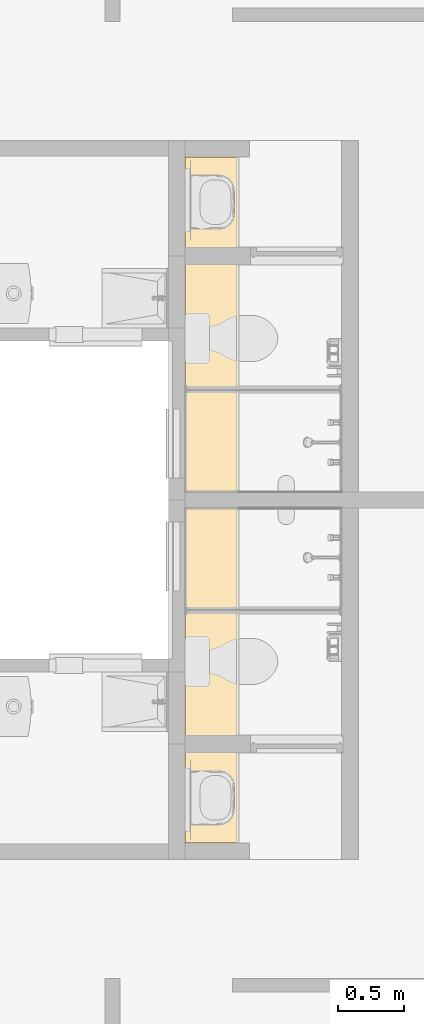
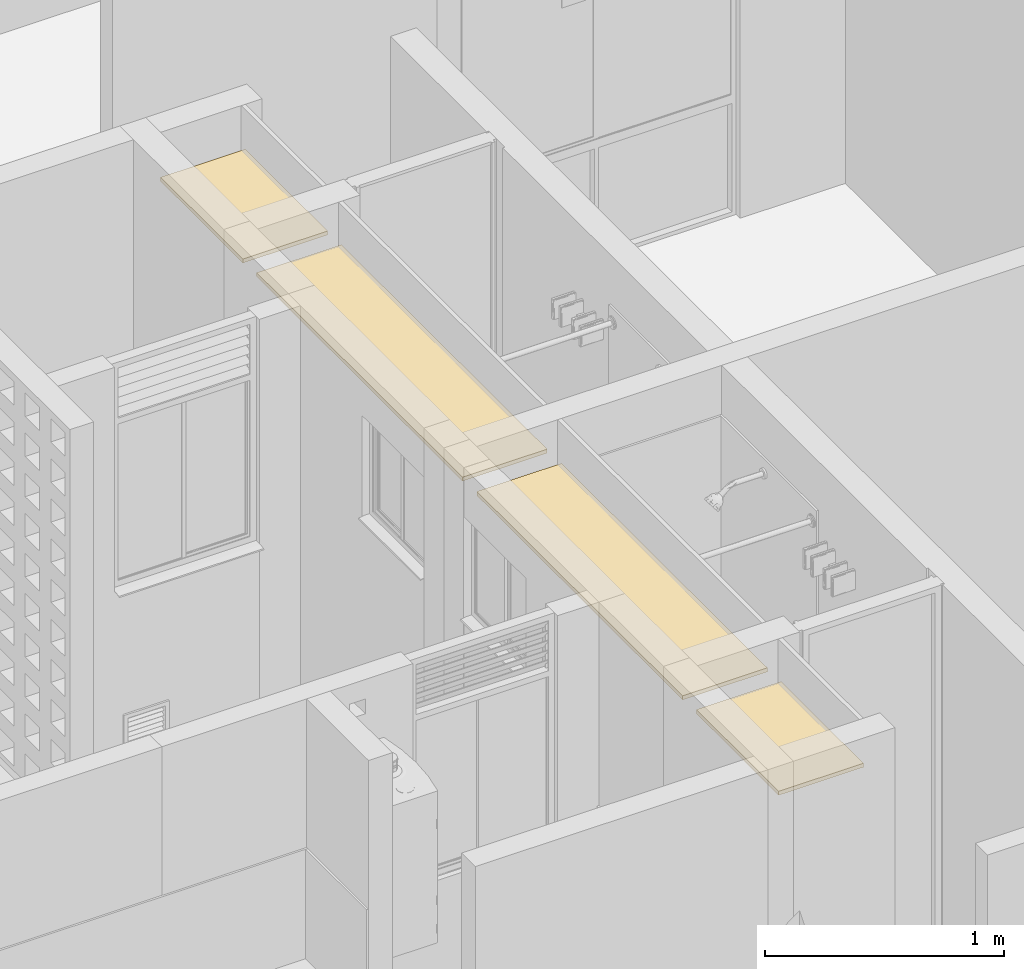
# One storey, part 37 of 48: 2 coverings.
"""IFC4 building model written with IfcOpenShell, lengths in metres."""

import ifcopenshell
import ifcopenshell.guid

model = None  # the IFC model being written
_history = None  # IfcOwnerHistory: only IFC2X3 demands one
_inside = {}  # id of a spatial element -> (the spatial element, [elements in it])
_under = {}  # id of a project, library or spatial element -> (it, [spatial elements below it])
_declared = {}  # id of a project -> (the project, [libraries it declares])
_typed = {}  # id of a type object -> (the type object, [elements of that type])
_made_of = {}  # id of a material, layer set ... -> (it, [elements and type objects made of it])


def new_model(schema):
    """Start an empty IFC model of exactly this schema.

    Asked for "IFC4X3", IfcOpenShell would pick the latest addendum, in which some entities
    have other attributes; the version numbers below select the first issue.
    IFC2X3 requires an IfcOwnerHistory on every rooted entity: one is made here for all.
    """
    global model, _history
    if schema == "IFC4X3":
        model = ifcopenshell.file(schema_version=(4, 3, 0, 0))
    else:
        model = ifcopenshell.file(schema=schema)
    _inside.clear()
    _under.clear()
    _declared.clear()
    _typed.clear()
    _made_of.clear()
    _history = None
    if model.schema == "IFC2X3":
        org = make("IfcOrganization", Name="unknown")
        user = make(
            "IfcPersonAndOrganization",
            ThePerson=make("IfcPerson", FamilyName="unknown"),
            TheOrganization=org,
        )
        app = make(
            "IfcApplication",
            ApplicationDeveloper=org,
            Version="unknown",
            ApplicationFullName="unknown",
            ApplicationIdentifier="unknown",
        )
        _history = make(
            "IfcOwnerHistory",
            OwningUser=user,
            OwningApplication=app,
            ChangeAction="ADDED",
            CreationDate=0,
        )
    return model


def make(cls, **values):
    """One entity of the class cls with the attributes given. An attribute that is None is left unset."""
    return model.create_entity(
        cls, **{name: value for name, value in values.items() if value is not None}
    )


def entity(cls, *values):
    """Any entity or typed value of the class cls, its attributes in the order of the schema. None: left unset."""
    e = model.create_entity(cls)
    for i, value in enumerate(values):
        if value is not None:
            e[i] = value
    return e


def rooted(cls, **values):
    """An entity with a GlobalId (a new one), such as an element, a storey or a relation."""
    return make(cls, GlobalId=ifcopenshell.guid.new(), OwnerHistory=_history, **values)


def si_unit(unit_type, name, prefix=None):
    """IfcSIUnit, for example si_unit("LENGTHUNIT", "METRE", prefix="MILLI")."""
    return make("IfcSIUnit", UnitType=unit_type, Prefix=prefix, Name=name)


def converted_unit(unit_type, name, factor, base, dimensions=None, offset=None):
    """IfcConversionBasedUnit, such as the inch: factor (a typed value) times the base unit."""
    return make(
        "IfcConversionBasedUnit"
        if offset is None
        else "IfcConversionBasedUnitWithOffset",
        ConversionOffset=offset,
        Dimensions=None
        if dimensions is None
        else entity("IfcDimensionalExponents", *dimensions),
        UnitType=unit_type,
        Name=name,
        ConversionFactor=make(
            "IfcMeasureWithUnit", ValueComponent=factor, UnitComponent=base
        ),
    )


def derived_unit(unit_type, elements):
    """IfcDerivedUnit: a product of units, each with its exponent."""
    return make(
        "IfcDerivedUnit",
        Elements=[
            make("IfcDerivedUnitElement", Unit=unit, Exponent=power)
            for unit, power in elements
        ],
        UnitType=unit_type,
    )


def assignment(units):
    """IfcUnitAssignment: the units of a project."""
    return None if units is None else make("IfcUnitAssignment", Units=units)


def point(xyz):
    """IfcCartesianPoint."""
    return None if xyz is None else make("IfcCartesianPoint", Coordinates=xyz)


def direction(xyz):
    """IfcDirection."""
    return None if xyz is None else make("IfcDirection", DirectionRatios=xyz)


def frame(location, z_axis=None, x_axis=None):
    """IfcAxis2Placement3D, a coordinate frame: its origin and axes. An axis left out is left unset."""
    return make(
        "IfcAxis2Placement3D",
        Location=point(location),
        Axis=direction(z_axis),
        RefDirection=direction(x_axis),
    )


def origin():
    """The frame at (0, 0, 0) with its axes left unset."""
    return frame((0.0, 0.0, 0.0))


def place(relative_to, where):
    """IfcLocalPlacement: puts the frame where relative to a parent placement (None: the world)."""
    return make(
        "IfcLocalPlacement", PlacementRelTo=relative_to, RelativePlacement=where
    )


def context(
    kind, dimensions, precision=None, world=None, true_north=None, identifier=None
):
    """IfcGeometricRepresentationContext, for example the 3D "Model" context."""
    return make(
        "IfcGeometricRepresentationContext",
        ContextIdentifier=identifier,
        ContextType=kind,
        CoordinateSpaceDimension=dimensions,
        Precision=precision,
        WorldCoordinateSystem=world,
        TrueNorth=true_north,
    )


def subcontext(parent, identifier, kind, view, scale=None):
    """IfcGeometricRepresentationSubContext, for example "Body" below "Model"."""
    return make(
        "IfcGeometricRepresentationSubContext",
        ContextIdentifier=identifier,
        ContextType=kind,
        ParentContext=parent,
        TargetScale=scale,
        TargetView=view,
    )


def project(units=None, contexts=None):
    """IfcProject with its units and contexts."""
    return rooted(
        "IfcProject",
        Name="project",
        RepresentationContexts=contexts,
        UnitsInContext=assignment(units),
    )


def spatial(cls, under=None, at=None, **own):
    """A site, building, storey or space (cls), placed at a placement, below another one or the project."""
    s = rooted(cls, ObjectPlacement=at, **own)
    if under is not None:
        _under.setdefault(under.id(), (under, []))[1].append(s)
    return s


def point_list(points):
    """IfcCartesianPointList2D or 3D."""
    cls = (
        "IfcCartesianPointList2D" if len(points[0]) == 2 else "IfcCartesianPointList3D"
    )
    return make(cls, CoordList=points)


def indexed_curve(points, segments=None, self_intersect=None):
    """IfcIndexedPolyCurve: lines and arcs through numbered points (the first is 1)."""
    return make(
        "IfcIndexedPolyCurve",
        Points=point_list(points),
        Segments=segments,
        SelfIntersect=self_intersect,
    )


def outline(outer, holes=None, kind="AREA"):
    """IfcArbitraryClosedProfileDef: a profile drawn as a closed curve; with holes, ...WithVoids."""
    if holes is None:
        return make("IfcArbitraryClosedProfileDef", ProfileType=kind, OuterCurve=outer)
    return make(
        "IfcArbitraryProfileDefWithVoids",
        ProfileType=kind,
        OuterCurve=outer,
        InnerCurves=holes,
    )


def extrude(swept, where, along, depth):
    """IfcExtrudedAreaSolid: the profile swept, set in the frame where, extruded along a direction by depth."""
    return make(
        "IfcExtrudedAreaSolid",
        SweptArea=swept,
        Position=where,
        ExtrudedDirection=direction(along),
        Depth=depth,
    )


def shape(context_of_items, identifier, shape_type, items):
    """IfcShapeRepresentation: the items that make up one representation, for example the "Body"."""
    return make(
        "IfcShapeRepresentation",
        ContextOfItems=context_of_items,
        RepresentationIdentifier=identifier,
        RepresentationType=shape_type,
        Items=items,
    )


def material(Name=None, Category=None):
    """IfcMaterial."""
    return make("IfcMaterial", Name=Name, Category=Category)


def made_of(thing, what):
    """Note that an element or type object is made of a material, layer set ...; save() writes the relation."""
    if what is not None:
        _made_of.setdefault(what.id(), (what, []))[1].append(thing)
    return thing


def type_object(cls, material=None, **own):
    """A type object (cls), such as IfcWallType, which elements share."""
    return made_of(rooted(cls, **own), material)


def element(
    cls,
    number,
    at=None,
    inside=None,
    cuts=None,
    type_object=None,
    material=None,
    context=None,
    identifier="Body",
    shape_type=None,
    held_by="IfcProductDefinitionShape",
    body=None,
    shapes=None,
    **own,
):
    """One element of the class cls, such as IfcWall. Its Tag is "e" and its number.

    at: its placement. inside: the storey or other place that contains it. cuts: it is an
    opening in that element (IfcRelVoidsElement). A single representation is given by context,
    identifier, shape_type and body (its items); several are given by shapes. held_by: the class
    of the entity that holds the representations. save() writes the other relations.
    """
    e = rooted(cls, Tag="e%d" % number, ObjectPlacement=at, **own)
    if body is not None:
        shapes = [shape(context, identifier, shape_type, body)]
    if shapes is not None:
        e.Representation = make(held_by, Representations=shapes)
    if inside is not None:
        _inside.setdefault(inside.id(), (inside, []))[1].append(e)
    if cuts is not None:
        rooted(
            "IfcRelVoidsElement", RelatingBuildingElement=cuts, RelatedOpeningElement=e
        )
    if type_object is not None:
        _typed.setdefault(type_object.id(), (type_object, []))[1].append(e)
    return made_of(e, material)


def aggregate(whole, parts):
    """IfcRelAggregates: a whole, such as a stair, and the parts it consists of."""
    return rooted("IfcRelAggregates", RelatingObject=whole, RelatedObjects=parts)


def save(model, path):
    """Write the relations noted so far, then the file.

    IfcRelAggregates (storeys below a building ...), IfcRelContainedInSpatialStructure (elements
    in a storey), IfcRelDefinesByType, IfcRelAssociatesMaterial and IfcRelDeclares: one each for
    every whole, place, type object, material and project.
    """
    for whole, parts in _under.values():
        aggregate(whole, parts)
    for where, things in _inside.values():
        rooted(
            "IfcRelContainedInSpatialStructure",
            RelatedElements=things,
            RelatingStructure=where,
        )
    for kind, things in _typed.values():
        rooted("IfcRelDefinesByType", RelatedObjects=things, RelatingType=kind)
    for what, things in _made_of.values():
        rooted("IfcRelAssociatesMaterial", RelatedObjects=things, RelatingMaterial=what)
    for by, libraries in _declared.values():
        rooted("IfcRelDeclares", RelatingContext=by, RelatedDefinitions=libraries)
    model.write(path)


model = new_model("IFC4")

# Units and contexts
model_context = context("Model", 3, precision=1e-05, world=origin(), true_north=direction((6.123031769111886e-17, 1.0)))
body_context = subcontext(model_context, "Body", "Model", "MODEL_VIEW")
ifc_project = project(units=[si_unit("LENGTHUNIT", "METRE"), si_unit("AREAUNIT", "SQUARE_METRE"), si_unit("VOLUMEUNIT", "CUBIC_METRE"), converted_unit("PLANEANGLEUNIT", "DEGREE", entity("IfcRatioMeasure", 0.017453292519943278), si_unit("PLANEANGLEUNIT", "RADIAN"), dimensions=[0, 0, 0, 0, 0, 0, 0]), si_unit("MASSUNIT", "GRAM", prefix="KILO"), derived_unit("MASSDENSITYUNIT", [(si_unit("MASSUNIT", "GRAM", prefix="KILO"), 1), (si_unit("LENGTHUNIT", "METRE"), -3)]), derived_unit("IONCONCENTRATIONUNIT", [(si_unit("MASSUNIT", "GRAM", prefix="KILO"), 1), (si_unit("LENGTHUNIT", "METRE"), -3)]), derived_unit("MOMENTOFINERTIAUNIT", [(si_unit("LENGTHUNIT", "METRE"), 4)]), si_unit("TIMEUNIT", "SECOND"), si_unit("FREQUENCYUNIT", "HERTZ"), si_unit("THERMODYNAMICTEMPERATUREUNIT", "DEGREE_CELSIUS"), derived_unit("THERMALTRANSMITTANCEUNIT", [(si_unit("MASSUNIT", "GRAM", prefix="KILO"), 1), (si_unit("THERMODYNAMICTEMPERATUREUNIT", "KELVIN"), -1), (si_unit("TIMEUNIT", "SECOND"), -3)]), derived_unit("THERMALCONDUCTANCEUNIT", [(si_unit("MASSUNIT", "GRAM", prefix="KILO"), 1), (si_unit("THERMODYNAMICTEMPERATUREUNIT", "KELVIN"), -1), (si_unit("TIMEUNIT", "SECOND"), -3), (si_unit("LENGTHUNIT", "METRE"), 1)]), derived_unit("VOLUMETRICFLOWRATEUNIT", [(si_unit("LENGTHUNIT", "METRE"), 3), (si_unit("TIMEUNIT", "SECOND"), -1)]), derived_unit("MASSFLOWRATEUNIT", [(si_unit("MASSUNIT", "GRAM", prefix="KILO"), 1), (si_unit("TIMEUNIT", "SECOND"), -1)]), derived_unit("ROTATIONALFREQUENCYUNIT", [(si_unit("TIMEUNIT", "SECOND"), -1)]), si_unit("ELECTRICCURRENTUNIT", "AMPERE"), si_unit("ELECTRICVOLTAGEUNIT", "VOLT"), si_unit("POWERUNIT", "WATT"), si_unit("FORCEUNIT", "NEWTON", prefix="KILO"), si_unit("ILLUMINANCEUNIT", "LUX"), si_unit("LUMINOUSFLUXUNIT", "LUMEN"), si_unit("LUMINOUSINTENSITYUNIT", "CANDELA"), derived_unit("USERDEFINED", [(si_unit("MASSUNIT", "GRAM", prefix="KILO"), -1), (si_unit("LENGTHUNIT", "METRE"), -2), (si_unit("TIMEUNIT", "SECOND"), 3), (si_unit("LUMINOUSFLUXUNIT", "LUMEN"), 1)]), derived_unit("USERDEFINED", [(si_unit("MASSUNIT", "GRAM", prefix="KILO"), 1), (si_unit("TIMEUNIT", "SECOND"), -3), (si_unit("LENGTHUNIT", "METRE"), 3), (si_unit("ELECTRICCURRENTUNIT", "AMPERE"), -2)]), derived_unit("SOUNDPOWERUNIT", [(si_unit("MASSUNIT", "GRAM", prefix="KILO"), 1), (si_unit("TIMEUNIT", "SECOND"), -3), (si_unit("LENGTHUNIT", "METRE"), 2)]), derived_unit("SOUNDPRESSUREUNIT", [(si_unit("MASSUNIT", "GRAM", prefix="KILO"), 1), (si_unit("LENGTHUNIT", "METRE"), -1), (si_unit("TIMEUNIT", "SECOND"), -2)]), derived_unit("LINEARVELOCITYUNIT", [(si_unit("LENGTHUNIT", "METRE"), 1), (si_unit("TIMEUNIT", "SECOND"), -1)]), si_unit("PRESSUREUNIT", "PASCAL"), derived_unit("USERDEFINED", [(si_unit("MASSUNIT", "GRAM", prefix="KILO"), 1), (si_unit("LENGTHUNIT", "METRE"), -2), (si_unit("TIMEUNIT", "SECOND"), -2)]), derived_unit("LINEARFORCEUNIT", [(si_unit("MASSUNIT", "GRAM", prefix="KILO"), 1), (si_unit("TIMEUNIT", "SECOND"), -2)]), derived_unit("PLANARFORCEUNIT", [(si_unit("MASSUNIT", "GRAM", prefix="KILO"), 1), (si_unit("LENGTHUNIT", "METRE"), -1), (si_unit("TIMEUNIT", "SECOND"), -2)]), derived_unit("SPECIFICHEATCAPACITYUNIT", [(si_unit("THERMODYNAMICTEMPERATUREUNIT", "KELVIN"), -1), (si_unit("LENGTHUNIT", "METRE"), 2), (si_unit("TIMEUNIT", "SECOND"), -2)]), derived_unit("HEATINGVALUEUNIT", [(si_unit("LENGTHUNIT", "METRE"), 2), (si_unit("TIMEUNIT", "SECOND"), -2)]), derived_unit("VAPORPERMEABILITYUNIT", [(si_unit("LENGTHUNIT", "METRE"), -1), (si_unit("TIMEUNIT", "SECOND"), 1)]), derived_unit("DYNAMICVISCOSITYUNIT", [(si_unit("MASSUNIT", "GRAM", prefix="KILO"), 1), (si_unit("TIMEUNIT", "SECOND"), -1), (si_unit("LENGTHUNIT", "METRE"), -1)]), derived_unit("THERMALEXPANSIONCOEFFICIENTUNIT", [(si_unit("THERMODYNAMICTEMPERATUREUNIT", "KELVIN"), -1)]), derived_unit("MODULUSOFELASTICITYUNIT", [(si_unit("MASSUNIT", "GRAM", prefix="KILO"), 1), (si_unit("LENGTHUNIT", "METRE"), -1), (si_unit("TIMEUNIT", "SECOND"), -2)]), derived_unit("ISOTHERMALMOISTURECAPACITYUNIT", [(si_unit("LENGTHUNIT", "METRE"), 3), (si_unit("MASSUNIT", "GRAM", prefix="KILO"), -1)]), derived_unit("MOISTUREDIFFUSIVITYUNIT", [(si_unit("TIMEUNIT", "SECOND"), -1), (si_unit("LENGTHUNIT", "METRE"), 2)])], contexts=[model_context])

# Site, building, storey, space
site_placement = place(None, origin())
site = spatial("IfcSite", under=ifc_project, at=site_placement, Name="Default", CompositionType="ELEMENT")
building_placement = place(site_placement, origin())
building = spatial("IfcBuilding", under=site, at=building_placement, CompositionType="ELEMENT")
storey_placement = place(building_placement, frame((0.0, 0.0, 9.40000000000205)))
storey = spatial("IfcBuildingStorey", under=building, at=storey_placement, Name="Nivel 5", CompositionType="ELEMENT", Elevation=9.40000000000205)
space_1_placement = place(storey_placement, origin())
space_1 = spatial("IfcSpace", under=storey, at=space_1_placement, Name="276", CompositionType="ELEMENT", PredefinedType="SPACE")

# Covering
ifc_material = material(Name="Plasterboard", Category="Materials")
covering_type = type_object("IfcCoveringType", Name="Compound Ceiling:C1070 - 0.02m - Plafón - Drywall", PredefinedType="CEILING")
covering_1_placement = place(space_1_placement, origin())
element("IfcCovering", 1, at=covering_1_placement, inside=space_1, type_object=covering_type, material=ifc_material, Name="Compound Ceiling:C1070 - 0.02m - Plafón - Drywall", ObjectType="Compound Ceiling:C1070 - 0.02m - Plafón - Drywall", PredefinedType="CEILING", context=body_context, shape_type="SweptSolid", body=[
    extrude(outline(indexed_curve([(-0.20500000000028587, -0.862499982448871), (0.20500000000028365, -0.862499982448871), (0.2050000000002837, 0.862499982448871), (-0.20500000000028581, 0.862499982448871), (-0.20500000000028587, -0.862499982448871)], self_intersect=False)), frame((14.887500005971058, -5.502500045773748, 2.0)), (0.0, 0.0, 1.0), 0.019999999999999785),
    extrude(outline(indexed_curve([(-0.20500000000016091, -0.3450000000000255), (0.20500000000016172, -0.3450000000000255), (0.20500000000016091, 0.3450000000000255), (-0.20500000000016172, 0.3450000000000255), (-0.20500000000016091, -0.3450000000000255)], self_intersect=False)), frame((14.887500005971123, -4.18000006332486, 2.0)), (0.0, 0.0, 1.0), 0.019999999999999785),
])

# Space
space_2_placement = place(storey_placement, origin())
space_2 = spatial("IfcSpace", under=storey, at=space_2_placement, Name="283", CompositionType="ELEMENT", PredefinedType="SPACE")

# Covering
covering_2_placement = place(space_2_placement, origin())
element("IfcCovering", 2, at=covering_2_placement, inside=space_2, type_object=covering_type, material=ifc_material, Name="Compound Ceiling:C1070 - 0.02m - Plafón - Drywall", ObjectType="Compound Ceiling:C1070 - 0.02m - Plafón - Drywall", PredefinedType="CEILING", context=body_context, shape_type="SweptSolid", body=[
    extrude(outline(indexed_curve([(-0.8624999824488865, -0.20500000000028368), (0.8624999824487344, -0.20500000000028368), (0.8624999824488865, 0.20500000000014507), (-0.8624999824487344, 0.2050000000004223), (-0.8624999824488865, -0.20500000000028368)], self_intersect=False)), frame((14.887500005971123, -7.347500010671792, 2.0), z_axis=(0.0, 0.0, 1.0), x_axis=(0.0, -1.0, 0.0)), (0.0, 0.0, 1.0), 0.019999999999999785),
    extrude(outline(indexed_curve([(-0.3450000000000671, -0.2050000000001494), (0.3449999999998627, -0.2050000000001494), (0.3450000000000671, 0.20499999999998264), (-0.3449999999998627, 0.20500000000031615), (-0.3450000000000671, -0.2050000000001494)], self_intersect=False)), frame((14.887500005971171, -8.66999999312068, 2.0), z_axis=(0.0, 0.0, 1.0), x_axis=(0.0, -1.0, 0.0)), (0.0, 0.0, 1.0), 0.019999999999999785),
])

save(model, "model.ifc")
